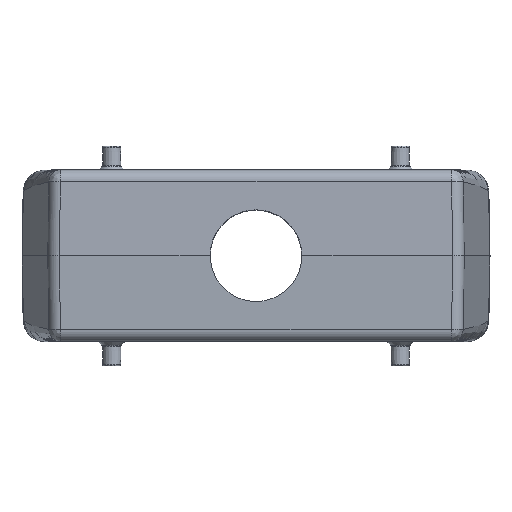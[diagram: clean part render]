
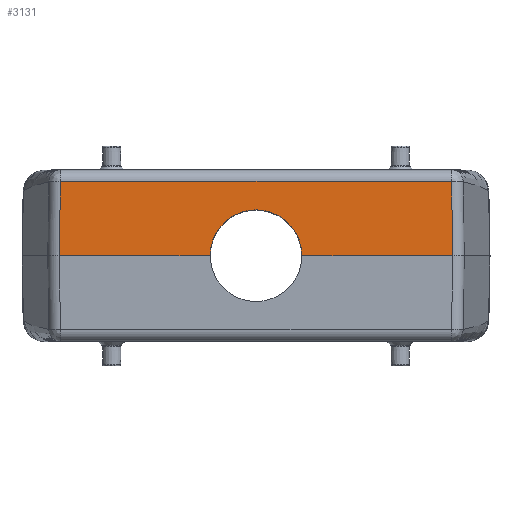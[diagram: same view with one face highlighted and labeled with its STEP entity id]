
A CAD part, top view. The second image highlights one B-rep face of the part: STEP entity #3131.
In plain terms, the highlighted planar face has unit normal (0, 0.018, 1).
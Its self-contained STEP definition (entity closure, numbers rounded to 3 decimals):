
#871 = CARTESIAN_POINT ( 'NONE',  ( 50.245, 12.615, 59.78 ) ) ;
#1012 = CARTESIAN_POINT ( 'NONE',  ( 50.138, 18.99, 59.669 ) ) ;
#1118 = DIRECTION ( 'NONE',  ( -1., 0., 0. ) ) ;
#1165 = VECTOR ( 'NONE', #1118, 1000. ) ;
#1173 = CARTESIAN_POINT ( 'NONE',  ( 50.153, 18.923, 59.67 ) ) ;
#1331 = VERTEX_POINT ( 'NONE', #18562 ) ;
#1576 = CARTESIAN_POINT ( 'NONE',  ( -50.088, 19.039, 59.668 ) ) ;
#1642 = CARTESIAN_POINT ( 'NONE',  ( -50.056, 19.052, 59.667 ) ) ;
#1721 = CARTESIAN_POINT ( 'NONE',  ( -50.021, 19.052, 59.667 ) ) ;
#2476 = VERTEX_POINT ( 'NONE', #6928 ) ;
#2483 = B_SPLINE_CURVE_WITH_KNOTS ( 'NONE', 3,
 ( #1721, #1642, #1576, #18809, #13523, #5214 ),
 .UNSPECIFIED., .F., .F.,
 ( 4, 2, 4 ),
 ( 0., 0.5, 1. ),
 .UNSPECIFIED. ) ;
#2570 = CARTESIAN_POINT ( 'NONE',  ( 50.43, 0., 60. ) ) ;
#2619 = EDGE_CURVE ( 'NONE', #2476, #1331, #2483, .T. ) ;
#2641 = CARTESIAN_POINT ( 'NONE',  ( 50.153, 18.923, 59.67 ) ) ;
#3131 = ADVANCED_FACE ( 'NONE', ( #13512 ), #17215, .T. ) ;
#3640 = B_SPLINE_CURVE_WITH_KNOTS ( 'NONE', 3,
 ( #12841, #14020, #20744, #20814 ),
 .UNSPECIFIED., .F., .F.,
 ( 4, 4 ),
 ( 0., 1. ),
 .UNSPECIFIED. ) ;
#3777 = EDGE_CURVE ( 'NONE', #14265, #13491, #10020, .T. ) ;
#4404 = CARTESIAN_POINT ( 'NONE',  ( 50.088, 19.04, 59.668 ) ) ;
#4838 = CARTESIAN_POINT ( 'NONE',  ( 11.75, 0., 60. ) ) ;
#5214 = CARTESIAN_POINT ( 'NONE',  ( -50.153, 18.923, 59.67 ) ) ;
#6268 = EDGE_CURVE ( 'NONE', #15595, #11302, #17537, .T. ) ;
#6605 = LINE ( 'NONE', #13849, #21313 ) ;
#6866 = ORIENTED_EDGE ( 'NONE', *, *, #7522, .T. ) ;
#6928 = CARTESIAN_POINT ( 'NONE',  ( -50.021, 19.052, 59.667 ) ) ;
#6941 = EDGE_LOOP ( 'NONE', ( #11664, #18400, #20962, #14385, #16899, #6866, #21613, #19363 ) ) ;
#7166 = CARTESIAN_POINT ( 'NONE',  ( -52.947, 0., 60. ) ) ;
#7189 = EDGE_CURVE ( 'NONE', #15595, #14177, #10026, .T. ) ;
#7232 = VERTEX_POINT ( 'NONE', #8867 ) ;
#7522 = EDGE_CURVE ( 'NONE', #11302, #2476, #6605, .T. ) ;
#8466 = CARTESIAN_POINT ( 'NONE',  ( 0., 0., 60. ) ) ;
#8867 = CARTESIAN_POINT ( 'NONE',  ( -50.43, 0., 60. ) ) ;
#8950 = EDGE_CURVE ( 'NONE', #13491, #7232, #12967, .T. ) ;
#8975 = CARTESIAN_POINT ( 'NONE',  ( 50.021, 19.052, 59.667 ) ) ;
#9416 = CARTESIAN_POINT ( 'NONE',  ( -52.947, 0., 60. ) ) ;
#10020 = CIRCLE ( 'NONE', #22042, 11.75 ) ;
#10026 = B_SPLINE_CURVE_WITH_KNOTS ( 'NONE', 3,
 ( #15730, #871, #12814, #2570 ),
 .UNSPECIFIED., .F., .F.,
 ( 4, 4 ),
 ( 0., 1. ),
 .UNSPECIFIED. ) ;
#10428 = DIRECTION ( 'NONE',  ( 0., -1., 0.017 ) ) ;
#11302 = VERTEX_POINT ( 'NONE', #8975 ) ;
#11361 = EDGE_CURVE ( 'NONE', #14177, #14265, #13739, .T. ) ;
#11664 = ORIENTED_EDGE ( 'NONE', *, *, #8950, .F. ) ;
#11888 = DIRECTION ( 'NONE',  ( 0., 0.017, 1. ) ) ;
#12745 = AXIS2_PLACEMENT_3D ( 'NONE', #18708, #15585, #10428 ) ;
#12814 = CARTESIAN_POINT ( 'NONE',  ( 50.338, 6.308, 59.89 ) ) ;
#12841 = CARTESIAN_POINT ( 'NONE',  ( -50.43, 0., 60. ) ) ;
#12967 = LINE ( 'NONE', #7166, #19905 ) ;
#13491 = VERTEX_POINT ( 'NONE', #17955 ) ;
#13512 = FACE_OUTER_BOUND ( 'NONE', #6941, .T. ) ;
#13523 = CARTESIAN_POINT ( 'NONE',  ( -50.152, 18.96, 59.669 ) ) ;
#13739 = LINE ( 'NONE', #9416, #1165 ) ;
#13849 = CARTESIAN_POINT ( 'NONE',  ( -52.947, 19.052, 59.667 ) ) ;
#14020 = CARTESIAN_POINT ( 'NONE',  ( -50.338, 6.308, 59.89 ) ) ;
#14177 = VERTEX_POINT ( 'NONE', #19863 ) ;
#14265 = VERTEX_POINT ( 'NONE', #4838 ) ;
#14385 = ORIENTED_EDGE ( 'NONE', *, *, #7189, .F. ) ;
#14455 = CARTESIAN_POINT ( 'NONE',  ( 50.021, 19.052, 59.667 ) ) ;
#14603 = CARTESIAN_POINT ( 'NONE',  ( 50.152, 18.959, 59.669 ) ) ;
#14957 = EDGE_CURVE ( 'NONE', #7232, #1331, #3640, .T. ) ;
#15585 = DIRECTION ( 'NONE',  ( 0., 0.017, 1. ) ) ;
#15595 = VERTEX_POINT ( 'NONE', #1173 ) ;
#15730 = CARTESIAN_POINT ( 'NONE',  ( 50.153, 18.923, 59.67 ) ) ;
#16899 = ORIENTED_EDGE ( 'NONE', *, *, #6268, .T. ) ;
#17202 = DIRECTION ( 'NONE',  ( -1., 0., 0. ) ) ;
#17215 = PLANE ( 'NONE',  #12745 ) ;
#17537 = B_SPLINE_CURVE_WITH_KNOTS ( 'NONE', 3,
 ( #2641, #14603, #1012, #4404, #19530, #14455 ),
 .UNSPECIFIED., .F., .F.,
 ( 4, 2, 4 ),
 ( 0., 0.5, 1. ),
 .UNSPECIFIED. ) ;
#17955 = CARTESIAN_POINT ( 'NONE',  ( -11.75, 0., 60. ) ) ;
#18400 = ORIENTED_EDGE ( 'NONE', *, *, #3777, .F. ) ;
#18562 = CARTESIAN_POINT ( 'NONE',  ( -50.153, 18.923, 59.67 ) ) ;
#18708 = CARTESIAN_POINT ( 'NONE',  ( -52.947, 0., 60. ) ) ;
#18809 = CARTESIAN_POINT ( 'NONE',  ( -50.139, 18.99, 59.669 ) ) ;
#18822 = DIRECTION ( 'NONE',  ( 0., -1., 0.017 ) ) ;
#18877 = DIRECTION ( 'NONE',  ( -1., 0., 0. ) ) ;
#19363 = ORIENTED_EDGE ( 'NONE', *, *, #14957, .F. ) ;
#19530 = CARTESIAN_POINT ( 'NONE',  ( 50.057, 19.052, 59.667 ) ) ;
#19863 = CARTESIAN_POINT ( 'NONE',  ( 50.43, 0., 60. ) ) ;
#19905 = VECTOR ( 'NONE', #18877, 1000. ) ;
#20744 = CARTESIAN_POINT ( 'NONE',  ( -50.245, 12.615, 59.78 ) ) ;
#20814 = CARTESIAN_POINT ( 'NONE',  ( -50.153, 18.923, 59.67 ) ) ;
#20962 = ORIENTED_EDGE ( 'NONE', *, *, #11361, .F. ) ;
#21313 = VECTOR ( 'NONE', #17202, 1000. ) ;
#21613 = ORIENTED_EDGE ( 'NONE', *, *, #2619, .T. ) ;
#22042 = AXIS2_PLACEMENT_3D ( 'NONE', #8466, #11888, #18822 ) ;
